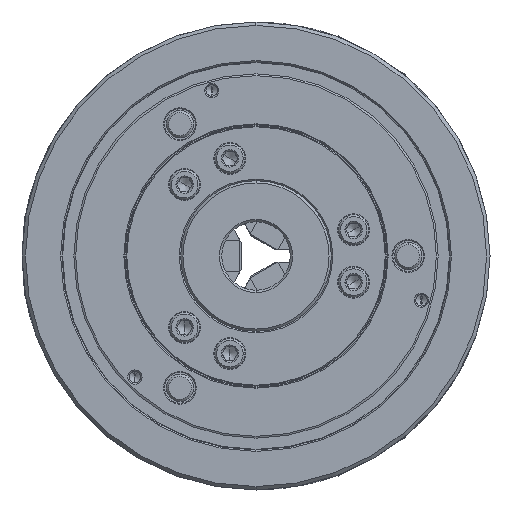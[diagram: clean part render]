
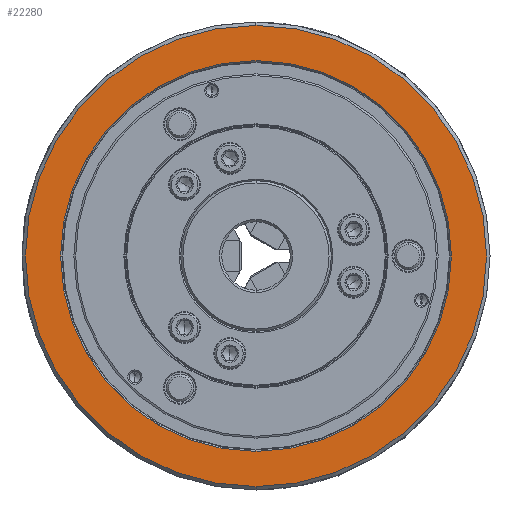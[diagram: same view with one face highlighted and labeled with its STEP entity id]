
A CAD part, left-side view. The second image highlights one B-rep face of the part: STEP entity #22280.
In plain terms, the highlighted planar face has unit normal (-1, 0, 0).
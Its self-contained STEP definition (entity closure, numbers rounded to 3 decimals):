
#4224 = DIRECTION ( 'NONE',  ( 0., 0., -1. ) ) ;
#6564 = DIRECTION ( 'NONE',  ( 1., 0., 0. ) ) ;
#7719 = DIRECTION ( 'NONE',  ( 0., 0., -1. ) ) ;
#8064 = EDGE_CURVE ( 'NONE', #86217, #33514, #79612, .T. ) ;
#9859 = DIRECTION ( 'NONE',  ( 1., 0., 0. ) ) ;
#9881 = CARTESIAN_POINT ( 'NONE',  ( -91., 0., -101. ) ) ;
#10301 = FACE_BOUND ( 'NONE', #53894, .T. ) ;
#15320 = CIRCLE ( 'NONE', #39266, 101. ) ;
#18775 = CIRCLE ( 'NONE', #21783, 101. ) ;
#20305 = EDGE_CURVE ( 'NONE', #33514, #86217, #74321, .T. ) ;
#21783 = AXIS2_PLACEMENT_3D ( 'NONE', #31389, #9859, #4224 ) ;
#22280 = ADVANCED_FACE ( 'NONE', ( #10301, #23885 ), #81056, .T. ) ;
#23154 = VERTEX_POINT ( 'NONE', #29650 ) ;
#23885 = FACE_OUTER_BOUND ( 'NONE', #86223, .T. ) ;
#28113 = ORIENTED_EDGE ( 'NONE', *, *, #20305, .T. ) ;
#29650 = CARTESIAN_POINT ( 'NONE',  ( -91., 0., 101. ) ) ;
#31389 = CARTESIAN_POINT ( 'NONE',  ( -91., 0., 0. ) ) ;
#31890 = DIRECTION ( 'NONE',  ( 1., 0., 0. ) ) ;
#33514 = VERTEX_POINT ( 'NONE', #62025 ) ;
#38397 = DIRECTION ( 'NONE',  ( -1., 0., 0. ) ) ;
#39266 = AXIS2_PLACEMENT_3D ( 'NONE', #48726, #6564, #57127 ) ;
#41401 = AXIS2_PLACEMENT_3D ( 'NONE', #43311, #71901, #7719 ) ;
#42214 = AXIS2_PLACEMENT_3D ( 'NONE', #67503, #31890, #53426 ) ;
#43311 = CARTESIAN_POINT ( 'NONE',  ( -91., 0., 0. ) ) ;
#45432 = CARTESIAN_POINT ( 'NONE',  ( -91., 101., 0. ) ) ;
#46598 = ORIENTED_EDGE ( 'NONE', *, *, #8064, .T. ) ;
#48726 = CARTESIAN_POINT ( 'NONE',  ( -91., 0., 0. ) ) ;
#53426 = DIRECTION ( 'NONE',  ( 0., 0., -1. ) ) ;
#53894 = EDGE_LOOP ( 'NONE', ( #28113, #46598 ) ) ;
#57127 = DIRECTION ( 'NONE',  ( 0., 0., -1. ) ) ;
#57475 = EDGE_CURVE ( 'NONE', #23154, #83876, #18775, .T. ) ;
#62025 = CARTESIAN_POINT ( 'NONE',  ( -91., 0., 85.6 ) ) ;
#65101 = CARTESIAN_POINT ( 'NONE',  ( -91., 0., -85.6 ) ) ;
#66483 = EDGE_CURVE ( 'NONE', #83876, #23154, #15320, .T. ) ;
#67503 = CARTESIAN_POINT ( 'NONE',  ( -91., 0., 0. ) ) ;
#71650 = ORIENTED_EDGE ( 'NONE', *, *, #57475, .F. ) ;
#71901 = DIRECTION ( 'NONE',  ( 1., 0., 0. ) ) ;
#74321 = CIRCLE ( 'NONE', #41401, 85.6 ) ;
#79612 = CIRCLE ( 'NONE', #42214, 85.6 ) ;
#81056 = PLANE ( 'NONE',  #85092 ) ;
#82690 = ORIENTED_EDGE ( 'NONE', *, *, #66483, .F. ) ;
#83876 = VERTEX_POINT ( 'NONE', #9881 ) ;
#85092 = AXIS2_PLACEMENT_3D ( 'NONE', #45432, #38397, #87626 ) ;
#86217 = VERTEX_POINT ( 'NONE', #65101 ) ;
#86223 = EDGE_LOOP ( 'NONE', ( #82690, #71650 ) ) ;
#87626 = DIRECTION ( 'NONE',  ( 0., 0., 1. ) ) ;
